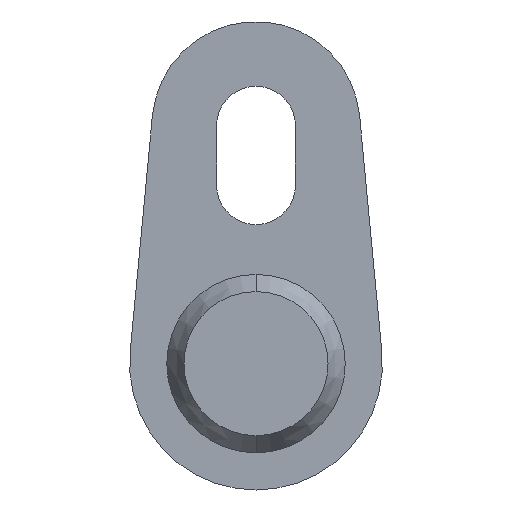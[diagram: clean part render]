
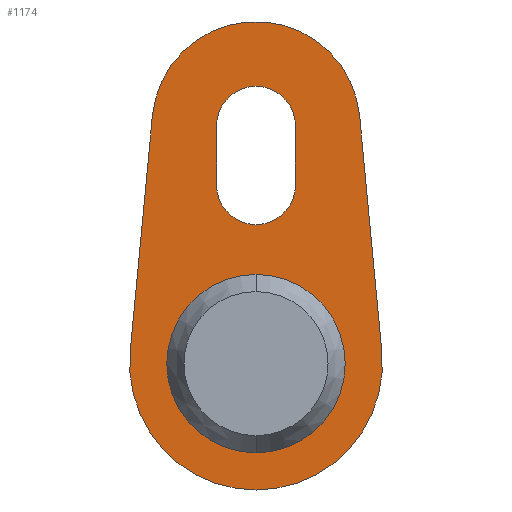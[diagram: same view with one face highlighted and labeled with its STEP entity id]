
A CAD part, front view. The second image highlights one B-rep face of the part: STEP entity #1174.
In plain terms, the highlighted planar face has unit normal (0, -1, 0).
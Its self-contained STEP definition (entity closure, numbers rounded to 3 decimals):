
#10 = CARTESIAN_POINT ( 'NONE',  ( 0., 0., -2.65 ) ) ;
#15 = EDGE_LOOP ( 'NONE', ( #269, #1181, #1709, #1104, #1654 ) ) ;
#47 = VECTOR ( 'NONE', #1317, 1000. ) ;
#69 = VERTEX_POINT ( 'NONE', #499 ) ;
#96 = EDGE_CURVE ( 'NONE', #342, #555, #647, .T. ) ;
#106 = CARTESIAN_POINT ( 'NONE',  ( 0., 0., 0. ) ) ;
#113 = DIRECTION ( 'NONE',  ( 0., 0., 1. ) ) ;
#116 = AXIS2_PLACEMENT_3D ( 'NONE', #1265, #587, #1130 ) ;
#171 = DIRECTION ( 'NONE',  ( 0., -1., 0. ) ) ;
#174 = CARTESIAN_POINT ( 'NONE',  ( 2.65, 0., 16. ) ) ;
#202 = AXIS2_PLACEMENT_3D ( 'NONE', #1197, #1763, #1606 ) ;
#221 = EDGE_CURVE ( 'NONE', #562, #1398, #872, .T. ) ;
#224 = LINE ( 'NONE', #775, #47 ) ;
#245 = CARTESIAN_POINT ( 'NONE',  ( 8.463, 0., 0.797 ) ) ;
#269 = ORIENTED_EDGE ( 'NONE', *, *, #420, .T. ) ;
#290 = PLANE ( 'NONE',  #683 ) ;
#308 = FACE_OUTER_BOUND ( 'NONE', #15, .T. ) ;
#313 = DIRECTION ( 'NONE',  ( 0., 0., 1. ) ) ;
#342 = VERTEX_POINT ( 'NONE', #1680 ) ;
#354 = VERTEX_POINT ( 'NONE', #1669 ) ;
#380 = EDGE_CURVE ( 'NONE', #69, #354, #436, .T. ) ;
#397 = CARTESIAN_POINT ( 'NONE',  ( 0., 0., 0. ) ) ;
#408 = CIRCLE ( 'NONE', #1530, 6. ) ;
#411 = VERTEX_POINT ( 'NONE', #174 ) ;
#420 = EDGE_CURVE ( 'NONE', #342, #562, #900, .T. ) ;
#427 = VERTEX_POINT ( 'NONE', #1283 ) ;
#436 = CIRCLE ( 'NONE', #1440, 2.65 ) ;
#443 = DIRECTION ( 'NONE',  ( 0., 0., -1. ) ) ;
#499 = CARTESIAN_POINT ( 'NONE',  ( 2.65, 0., 12. ) ) ;
#509 = AXIS2_PLACEMENT_3D ( 'NONE', #910, #1315, #1471 ) ;
#531 = DIRECTION ( 'NONE',  ( 0., 1., 0. ) ) ;
#555 = VERTEX_POINT ( 'NONE', #960 ) ;
#562 = VERTEX_POINT ( 'NONE', #645 ) ;
#587 = DIRECTION ( 'NONE',  ( 0., -1., 0. ) ) ;
#594 = CIRCLE ( 'NONE', #1032, 2.65 ) ;
#634 = EDGE_CURVE ( 'NONE', #1704, #1099, #408, .T. ) ;
#645 = CARTESIAN_POINT ( 'NONE',  ( 0., 0., -8.5 ) ) ;
#647 = LINE ( 'NONE', #1578, #1468 ) ;
#683 = AXIS2_PLACEMENT_3D ( 'NONE', #10, #171, #841 ) ;
#710 = LINE ( 'NONE', #1249, #1691 ) ;
#737 = CIRCLE ( 'NONE', #797, 6. ) ;
#775 = CARTESIAN_POINT ( 'NONE',  ( -2.65, 0., 12. ) ) ;
#797 = AXIS2_PLACEMENT_3D ( 'NONE', #397, #1058, #113 ) ;
#801 = CIRCLE ( 'NONE', #1134, 2.65 ) ;
#804 = ORIENTED_EDGE ( 'NONE', *, *, #1332, .T. ) ;
#841 = DIRECTION ( 'NONE',  ( 0., 0., -1. ) ) ;
#872 = CIRCLE ( 'NONE', #202, 8.5 ) ;
#888 = VECTOR ( 'NONE', #1580, 1000. ) ;
#900 = CIRCLE ( 'NONE', #116, 8.5 ) ;
#910 = CARTESIAN_POINT ( 'NONE',  ( 0., 0., 16. ) ) ;
#936 = DIRECTION ( 'NONE',  ( 0., 1., 0. ) ) ;
#950 = EDGE_LOOP ( 'NONE', ( #1113, #1682 ) ) ;
#960 = CARTESIAN_POINT ( 'NONE',  ( -6.969, 0., 16.656 ) ) ;
#964 = EDGE_CURVE ( 'NONE', #1099, #1704, #737, .T. ) ;
#966 = CARTESIAN_POINT ( 'NONE',  ( 0., 0., 6. ) ) ;
#978 = FACE_BOUND ( 'NONE', #950, .T. ) ;
#993 = VERTEX_POINT ( 'NONE', #1051 ) ;
#1032 = AXIS2_PLACEMENT_3D ( 'NONE', #1331, #936, #1090 ) ;
#1040 = LINE ( 'NONE', #1186, #888 ) ;
#1049 = EDGE_CURVE ( 'NONE', #1679, #993, #224, .T. ) ;
#1051 = CARTESIAN_POINT ( 'NONE',  ( -2.65, 0., 16. ) ) ;
#1058 = DIRECTION ( 'NONE',  ( 0., 1., 0. ) ) ;
#1090 = DIRECTION ( 'NONE',  ( 0., 0., 1. ) ) ;
#1099 = VERTEX_POINT ( 'NONE', #966 ) ;
#1104 = ORIENTED_EDGE ( 'NONE', *, *, #1329, .F. ) ;
#1113 = ORIENTED_EDGE ( 'NONE', *, *, #964, .T. ) ;
#1130 = DIRECTION ( 'NONE',  ( 0., 0., -1. ) ) ;
#1134 = AXIS2_PLACEMENT_3D ( 'NONE', #1324, #1286, #1463 ) ;
#1142 = EDGE_LOOP ( 'NONE', ( #1584, #804, #1200, #1243, #1538 ) ) ;
#1158 = CARTESIAN_POINT ( 'NONE',  ( -2.65, 0., 12. ) ) ;
#1174 = ADVANCED_FACE ( 'NONE', ( #978, #308, #1675 ), #290, .T. ) ;
#1181 = ORIENTED_EDGE ( 'NONE', *, *, #221, .T. ) ;
#1186 = CARTESIAN_POINT ( 'NONE',  ( 8.463, 0., 0.797 ) ) ;
#1197 = CARTESIAN_POINT ( 'NONE',  ( 0., 0., 0. ) ) ;
#1200 = ORIENTED_EDGE ( 'NONE', *, *, #1049, .T. ) ;
#1233 = EDGE_CURVE ( 'NONE', #411, #69, #710, .T. ) ;
#1243 = ORIENTED_EDGE ( 'NONE', *, *, #1370, .T. ) ;
#1249 = CARTESIAN_POINT ( 'NONE',  ( 2.65, 0., 12. ) ) ;
#1265 = CARTESIAN_POINT ( 'NONE',  ( 0., 0., 0. ) ) ;
#1283 = CARTESIAN_POINT ( 'NONE',  ( 6.969, 0., 16.656 ) ) ;
#1286 = DIRECTION ( 'NONE',  ( 0., 1., 0. ) ) ;
#1296 = EDGE_CURVE ( 'NONE', #427, #1398, #1040, .T. ) ;
#1304 = DIRECTION ( 'NONE',  ( 0.094, 0., 0.996 ) ) ;
#1315 = DIRECTION ( 'NONE',  ( 0., 1., 0. ) ) ;
#1317 = DIRECTION ( 'NONE',  ( 0., 0., 1. ) ) ;
#1324 = CARTESIAN_POINT ( 'NONE',  ( 0., 0., 12. ) ) ;
#1329 = EDGE_CURVE ( 'NONE', #555, #427, #1571, .T. ) ;
#1331 = CARTESIAN_POINT ( 'NONE',  ( 0., 0., 16. ) ) ;
#1332 = EDGE_CURVE ( 'NONE', #354, #1679, #801, .T. ) ;
#1370 = EDGE_CURVE ( 'NONE', #993, #411, #594, .T. ) ;
#1398 = VERTEX_POINT ( 'NONE', #245 ) ;
#1440 = AXIS2_PLACEMENT_3D ( 'NONE', #1790, #1662, #313 ) ;
#1461 = CARTESIAN_POINT ( 'NONE',  ( 0., 0., -6. ) ) ;
#1463 = DIRECTION ( 'NONE',  ( 0., 0., 1. ) ) ;
#1468 = VECTOR ( 'NONE', #1304, 1000. ) ;
#1471 = DIRECTION ( 'NONE',  ( 0., 0., 1. ) ) ;
#1530 = AXIS2_PLACEMENT_3D ( 'NONE', #106, #531, #1760 ) ;
#1538 = ORIENTED_EDGE ( 'NONE', *, *, #1233, .T. ) ;
#1571 = CIRCLE ( 'NONE', #509, 7. ) ;
#1578 = CARTESIAN_POINT ( 'NONE',  ( -8.463, 0., 0.797 ) ) ;
#1580 = DIRECTION ( 'NONE',  ( 0.094, 0., -0.996 ) ) ;
#1584 = ORIENTED_EDGE ( 'NONE', *, *, #380, .T. ) ;
#1606 = DIRECTION ( 'NONE',  ( 0., 0., -1. ) ) ;
#1654 = ORIENTED_EDGE ( 'NONE', *, *, #96, .F. ) ;
#1662 = DIRECTION ( 'NONE',  ( 0., 1., 0. ) ) ;
#1669 = CARTESIAN_POINT ( 'NONE',  ( 0., 0., 9.35 ) ) ;
#1675 = FACE_BOUND ( 'NONE', #1142, .T. ) ;
#1679 = VERTEX_POINT ( 'NONE', #1158 ) ;
#1680 = CARTESIAN_POINT ( 'NONE',  ( -8.463, 0., 0.797 ) ) ;
#1682 = ORIENTED_EDGE ( 'NONE', *, *, #634, .T. ) ;
#1691 = VECTOR ( 'NONE', #443, 1000. ) ;
#1704 = VERTEX_POINT ( 'NONE', #1461 ) ;
#1709 = ORIENTED_EDGE ( 'NONE', *, *, #1296, .F. ) ;
#1760 = DIRECTION ( 'NONE',  ( 0., 0., 1. ) ) ;
#1763 = DIRECTION ( 'NONE',  ( 0., -1., 0. ) ) ;
#1790 = CARTESIAN_POINT ( 'NONE',  ( 0., 0., 12. ) ) ;
